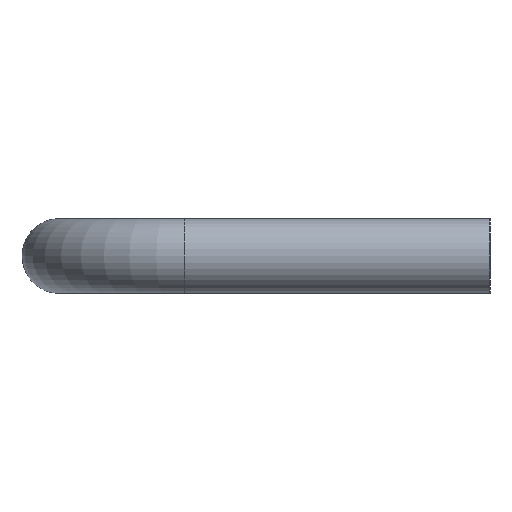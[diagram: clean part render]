
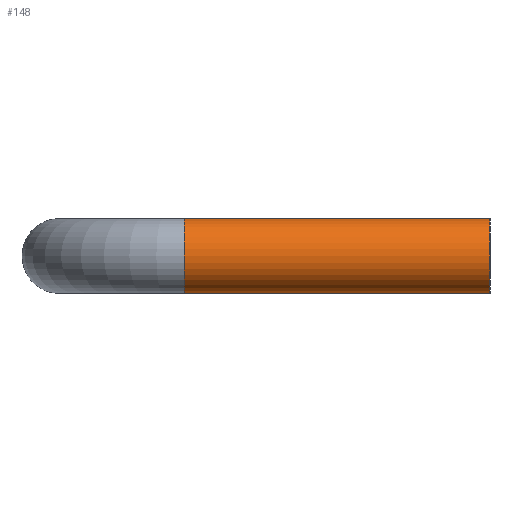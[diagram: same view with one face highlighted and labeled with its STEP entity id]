
A CAD part, left-side view. The second image highlights one B-rep face of the part: STEP entity #148.
In plain terms, the highlighted cylindrical face has radius 6 mm (diameter 12 mm), a full revolution.
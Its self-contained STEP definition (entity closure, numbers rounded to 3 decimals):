
#28=CYLINDRICAL_SURFACE('',#176,6.);
#35=ORIENTED_EDGE('',*,*,#59,.F.);
#36=ORIENTED_EDGE('',*,*,#57,.T.);
#57=EDGE_CURVE('',#69,#69,#83,.T.);
#59=EDGE_CURVE('',#71,#71,#85,.T.);
#69=VERTEX_POINT('',#253);
#71=VERTEX_POINT('',#258);
#83=CIRCLE('',#174,6.);
#85=CIRCLE('',#177,6.);
#97=EDGE_LOOP('',(#35));
#98=EDGE_LOOP('',(#36));
#121=FACE_BOUND('',#97,.T.);
#122=FACE_BOUND('',#98,.T.);
#148=ADVANCED_FACE('',(#121,#122),#28,.T.);
#174=AXIS2_PLACEMENT_3D('',#252,#202,#203);
#176=AXIS2_PLACEMENT_3D('',#256,#206,#207);
#177=AXIS2_PLACEMENT_3D('',#257,#208,#209);
#202=DIRECTION('',(0.,1.,0.));
#203=DIRECTION('',(0.,0.,1.));
#206=DIRECTION('',(0.,1.,0.));
#207=DIRECTION('',(0.,0.,1.));
#208=DIRECTION('',(0.,1.,0.));
#209=DIRECTION('',(0.,0.,1.));
#252=CARTESIAN_POINT('',(-80.,0.,0.));
#253=CARTESIAN_POINT('',(-80.,0.,6.));
#256=CARTESIAN_POINT('',(-80.,49.,0.));
#257=CARTESIAN_POINT('',(-80.,49.,0.));
#258=CARTESIAN_POINT('',(-80.,49.,6.));
